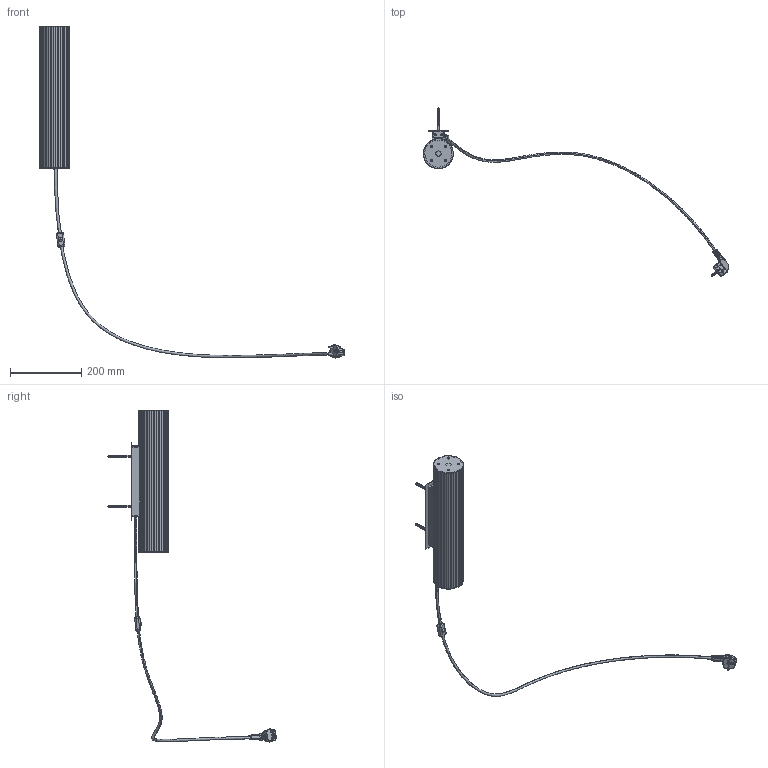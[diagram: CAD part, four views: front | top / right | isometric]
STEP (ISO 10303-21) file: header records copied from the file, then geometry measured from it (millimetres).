
FILE_DESCRIPTION(/* description */ (''),/* implementation_level */ '2;1');
FILE_NAME(/* name */ 'Vuelta Wall Lamps_40_3D',/* time_stamp */ '2021-05-03T15:23:27+02:00',/* author */ (''),/* organization */ (''),/* preprocessor_version */ 'ST-DEVELOPER v16.5',/* originating_system */ '',/* authorisation */ '');
FILE_SCHEMA (('CONFIG_CONTROL_DESIGN'));
Length unit declared in the file: millimetre
Products named in the file (1): Document
Bounding box: 856.54 x 473.69 x 932.16 mm (x, y, z)
Volume: 614128.4 mm3; surface area: 360492.5 mm2
Topology: 29 solids, 386 shells, 955 faces, 2453 edges, 1875 vertices
Faces by surface type: cylinder 329, bspline 316, plane 310
Entity records: 79259 total; most frequent: CARTESIAN_POINT 63969, ORIENTED_EDGE 3914, EDGE_CURVE 2415, VERTEX_POINT 1877, B_SPLINE_CURVE_WITH_KNOTS 1300, EDGE_LOOP 1008, ADVANCED_FACE 955, FACE_OUTER_BOUND 955
